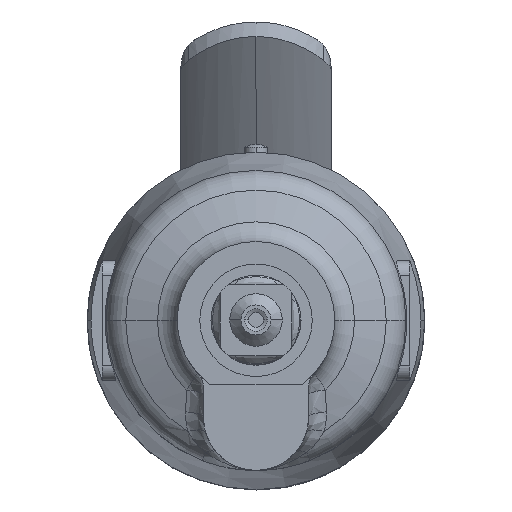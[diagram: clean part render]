
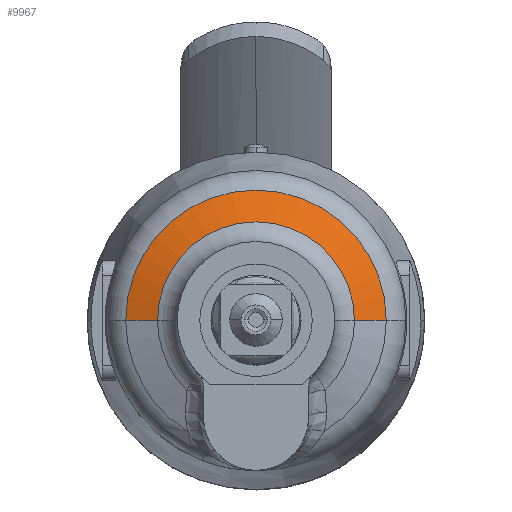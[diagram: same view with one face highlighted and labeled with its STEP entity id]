
A CAD part, top view. The second image highlights one B-rep face of the part: STEP entity #9967.
In plain terms, the highlighted conical face has half-angle 70 degrees and reference radius 20 mm.
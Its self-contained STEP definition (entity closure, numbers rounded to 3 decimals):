
#891 = DIRECTION ( 'NONE',  ( 0., 0., 1. ) ) ;
#1580 = LINE ( 'NONE', #16491, #27073 ) ;
#2291 = EDGE_LOOP ( 'NONE', ( #3261, #27234, #15745, #23713 ) ) ;
#2620 = CARTESIAN_POINT ( 'NONE',  ( 0., 0., -12.458 ) ) ;
#3261 = ORIENTED_EDGE ( 'NONE', *, *, #25545, .T. ) ;
#3306 = CONICAL_SURFACE ( 'NONE', #31384, 20., 1.222 ) ;
#3799 = LINE ( 'NONE', #21945, #15713 ) ;
#3930 = DIRECTION ( 'NONE',  ( 0.94, 0., -0.342 ) ) ;
#4123 = FACE_OUTER_BOUND ( 'NONE', #2291, .T. ) ;
#4418 = AXIS2_PLACEMENT_3D ( 'NONE', #16218, #891, #28933 ) ;
#6385 = CARTESIAN_POINT ( 'NONE',  ( -13.132, 0., -9.958 ) ) ;
#6732 = DIRECTION ( 'NONE',  ( -0.94, 0., -0.342 ) ) ;
#7592 = VERTEX_POINT ( 'NONE', #31932 ) ;
#7637 = VERTEX_POINT ( 'NONE', #6385 ) ;
#9671 = VERTEX_POINT ( 'NONE', #18245 ) ;
#9967 = ADVANCED_FACE ( 'NONE', ( #4123 ), #3306, .T. ) ;
#10072 = VERTEX_POINT ( 'NONE', #16709 ) ;
#12943 = DIRECTION ( 'NONE',  ( -1., 0., 0. ) ) ;
#13782 = CIRCLE ( 'NONE', #4418, 17.368 ) ;
#15713 = VECTOR ( 'NONE', #6732, 1000. ) ;
#15745 = ORIENTED_EDGE ( 'NONE', *, *, #15901, .T. ) ;
#15901 = EDGE_CURVE ( 'NONE', #10072, #7592, #13782, .T. ) ;
#16218 = CARTESIAN_POINT ( 'NONE',  ( 0., 0., -11.5 ) ) ;
#16491 = CARTESIAN_POINT ( 'NONE',  ( 20., 0., -12.458 ) ) ;
#16709 = CARTESIAN_POINT ( 'NONE',  ( 17.368, 0., -11.5 ) ) ;
#18245 = CARTESIAN_POINT ( 'NONE',  ( 13.132, 0., -9.958 ) ) ;
#18394 = CARTESIAN_POINT ( 'NONE',  ( 0., 0., -9.958 ) ) ;
#20513 = DIRECTION ( 'NONE',  ( 0., 0., -1. ) ) ;
#21945 = CARTESIAN_POINT ( 'NONE',  ( -20., 0., -12.458 ) ) ;
#23713 = ORIENTED_EDGE ( 'NONE', *, *, #28359, .F. ) ;
#25545 = EDGE_CURVE ( 'NONE', #7637, #9671, #29078, .T. ) ;
#26189 = DIRECTION ( 'NONE',  ( 0., 0., -1. ) ) ;
#26239 = EDGE_CURVE ( 'NONE', #9671, #10072, #1580, .T. ) ;
#27073 = VECTOR ( 'NONE', #3930, 1000. ) ;
#27234 = ORIENTED_EDGE ( 'NONE', *, *, #26239, .T. ) ;
#28322 = DIRECTION ( 'NONE',  ( -1., 0., 0. ) ) ;
#28359 = EDGE_CURVE ( 'NONE', #7637, #7592, #3799, .T. ) ;
#28933 = DIRECTION ( 'NONE',  ( 1., 0., 0. ) ) ;
#29078 = CIRCLE ( 'NONE', #32429, 13.132 ) ;
#31384 = AXIS2_PLACEMENT_3D ( 'NONE', #2620, #20513, #12943 ) ;
#31932 = CARTESIAN_POINT ( 'NONE',  ( -17.368, 0., -11.5 ) ) ;
#32429 = AXIS2_PLACEMENT_3D ( 'NONE', #18394, #26189, #28322 ) ;
